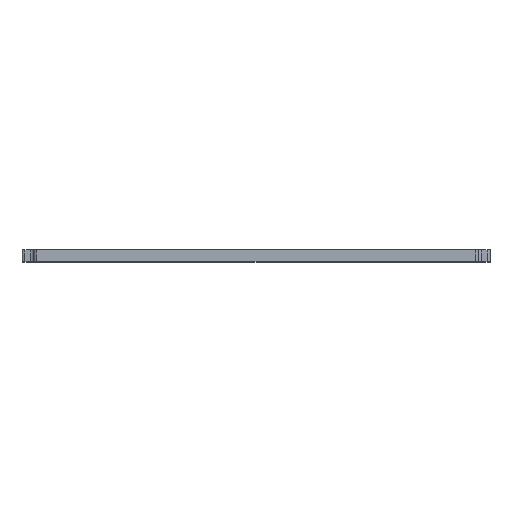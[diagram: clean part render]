
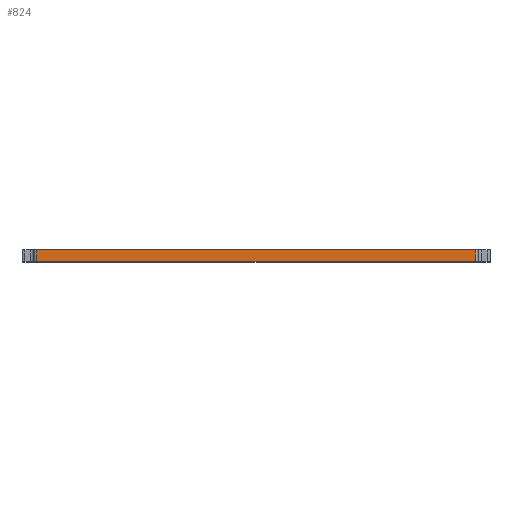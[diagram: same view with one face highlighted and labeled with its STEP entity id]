
A CAD part, top view. The second image highlights one B-rep face of the part: STEP entity #824.
In plain terms, the highlighted planar face has unit normal (0, 0, 1).
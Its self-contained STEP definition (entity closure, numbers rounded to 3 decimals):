
#28=PLANE($,#912);
#64=FACE_OUTER_BOUND($,#109,.T.);
#109=EDGE_LOOP($,(#708,#709,#710,#711));
#147=LINE($,#1262,#227);
#185=LINE($,#1370,#265);
#194=LINE($,#1398,#274);
#196=LINE($,#1401,#276);
#227=VECTOR($,#993,444.);
#265=VECTOR($,#1105,444.);
#274=VECTOR($,#1132,12.);
#276=VECTOR($,#1136,12.);
#367=VERTEX_POINT($,#1259);
#368=VERTEX_POINT($,#1261);
#400=VERTEX_POINT($,#1367);
#401=VERTEX_POINT($,#1369);
#450=EDGE_CURVE($,#367,#368,#147,.T.);
#504=EDGE_CURVE($,#400,#401,#185,.T.);
#520=EDGE_CURVE($,#401,#367,#194,.T.);
#522=EDGE_CURVE($,#368,#400,#196,.T.);
#708=ORIENTED_EDGE($,*,*,#520,.F.);
#709=ORIENTED_EDGE($,*,*,#504,.F.);
#710=ORIENTED_EDGE($,*,*,#522,.F.);
#711=ORIENTED_EDGE($,*,*,#450,.F.);
#824=ADVANCED_FACE($,(#64),#28,.T.);
#912=AXIS2_PLACEMENT_3D($,#1400,#1134,#1135);
#993=DIRECTION($,(-1.,0.,0.));
#1105=DIRECTION($,(1.,0.,0.));
#1132=DIRECTION($,(0.,-1.,0.));
#1134=DIRECTION('center_axis',(0.,0.,1.));
#1135=DIRECTION('ref_axis',(1.,0.,0.));
#1136=DIRECTION($,(0.,1.,0.));
#1259=CARTESIAN_POINT('',(222.,0.,203.95));
#1261=CARTESIAN_POINT('',(-222.,0.,203.95));
#1262=CARTESIAN_POINT($,(225.,0.,203.95));
#1367=CARTESIAN_POINT('',(-222.,12.,203.95));
#1369=CARTESIAN_POINT('',(222.,12.,203.95));
#1370=CARTESIAN_POINT($,(225.,12.,203.95));
#1398=CARTESIAN_POINT($,(222.,0.,203.95));
#1400=CARTESIAN_POINT('Origin',(-225.,0.,203.95));
#1401=CARTESIAN_POINT($,(-222.,0.,203.95));
